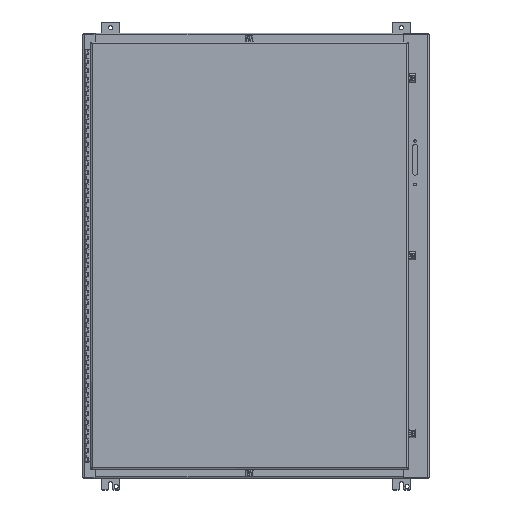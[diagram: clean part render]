
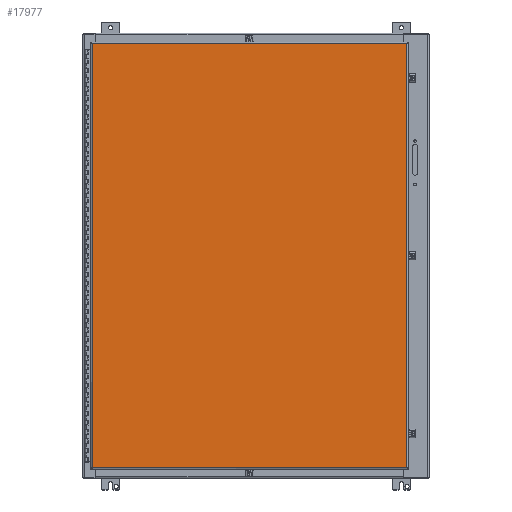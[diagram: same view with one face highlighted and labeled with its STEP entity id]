
A CAD part, top view. The second image highlights one B-rep face of the part: STEP entity #17977.
In plain terms, the highlighted planar face has unit normal (0, 0, 1) as drawn and (0, 1, 0) by its records, which use the part's own axes.
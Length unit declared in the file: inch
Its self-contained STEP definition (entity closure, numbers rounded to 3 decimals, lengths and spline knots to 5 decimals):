
#16034=DIRECTION('',(0.,0.,1.));
#16035=VECTOR('',#16034,33.96);
#16036=CARTESIAN_POINT('',(-22.88638,0.,0.145));
#16037=LINE('',#16036,#16035);
#16084=DIRECTION('',(0.,0.,1.));
#16085=VECTOR('',#16084,33.96);
#16086=CARTESIAN_POINT('',(22.88638,0.,0.145));
#16087=LINE('',#16086,#16085);
#16186=DIRECTION('',(-1.,0.,0.));
#16187=VECTOR('',#16186,45.77275);
#16188=CARTESIAN_POINT('',(22.88638,0.,0.145));
#16189=LINE('',#16188,#16187);
#17030=DIRECTION('',(-1.,0.,0.));
#17031=VECTOR('',#17030,45.77275);
#17032=CARTESIAN_POINT('',(22.88638,0.,34.105));
#17033=LINE('',#17032,#17031);
#17314=CARTESIAN_POINT('',(22.88638,0.,0.145));
#17315=CARTESIAN_POINT('',(-22.88638,0.,0.145));
#17316=VERTEX_POINT('',#17314);
#17317=VERTEX_POINT('',#17315);
#17318=CARTESIAN_POINT('',(22.88638,0.,34.105));
#17319=CARTESIAN_POINT('',(-22.88638,0.,34.105));
#17320=VERTEX_POINT('',#17318);
#17321=VERTEX_POINT('',#17319);
#17963=CARTESIAN_POINT('',(23.03138,0.,0.));
#17964=DIRECTION('',(0.,1.,0.));
#17965=DIRECTION('',(-1.,0.,0.));
#17966=AXIS2_PLACEMENT_3D('',#17963,#17964,#17965);
#17967=PLANE('',#17966);
#17969=ORIENTED_EDGE('',*,*,#17968,.T.);
#17971=ORIENTED_EDGE('',*,*,#17970,.T.);
#17972=ORIENTED_EDGE('',*,*,#17953,.F.);
#17974=ORIENTED_EDGE('',*,*,#17973,.F.);
#17975=EDGE_LOOP('',(#17969,#17971,#17972,#17974));
#17976=FACE_OUTER_BOUND('',#17975,.F.);
#17953=EDGE_CURVE('',#17317,#17321,#16037,.T.);
#17968=EDGE_CURVE('',#17316,#17320,#16087,.T.);
#17970=EDGE_CURVE('',#17320,#17321,#17033,.T.);
#17973=EDGE_CURVE('',#17316,#17317,#16189,.T.);
#17977=ADVANCED_FACE('',(#17976),#17967,.T.);
